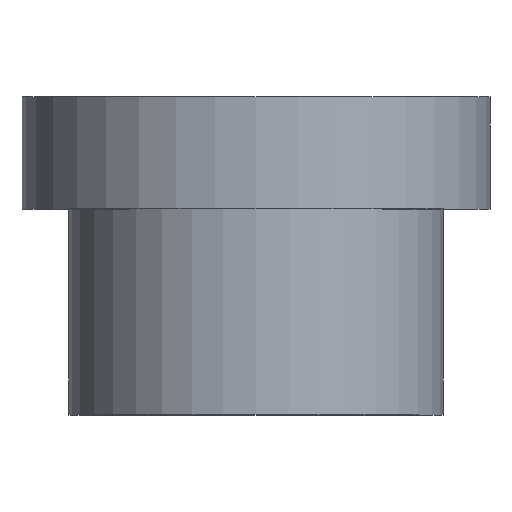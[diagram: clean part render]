
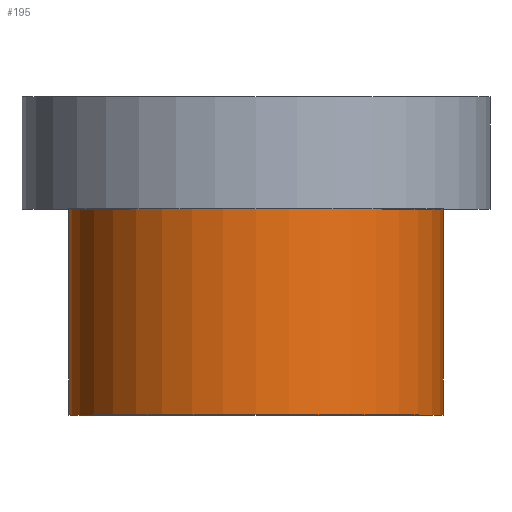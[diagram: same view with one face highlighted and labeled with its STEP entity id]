
A CAD part, top view. The second image highlights one B-rep face of the part: STEP entity #195.
In plain terms, the highlighted cylindrical face has radius 10 mm (diameter 20 mm), a full revolution.
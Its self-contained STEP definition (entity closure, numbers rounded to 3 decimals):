
#32=ORIENTED_EDGE('',*,*,#50,.T.);
#33=ORIENTED_EDGE('',*,*,#49,.F.);
#49=EDGE_CURVE('',#59,#59,#69,.T.);
#50=EDGE_CURVE('',#60,#60,#70,.T.);
#59=VERTEX_POINT('',#280);
#60=VERTEX_POINT('',#283);
#69=CIRCLE('',#213,10.);
#70=CIRCLE('',#215,10.);
#82=EDGE_LOOP('',(#32));
#83=EDGE_LOOP('',(#33));
#102=FACE_BOUND('',#82,.T.);
#103=FACE_BOUND('',#83,.T.);
#117=CYLINDRICAL_SURFACE('',#214,10.);
#195=ADVANCED_FACE('',(#102,#103),#117,.T.);
#213=AXIS2_PLACEMENT_3D('',#279,#241,#242);
#214=AXIS2_PLACEMENT_3D('',#281,#243,#244);
#215=AXIS2_PLACEMENT_3D('',#282,#245,#246);
#241=DIRECTION('',(0.,-1.,0.));
#242=DIRECTION('',(0.,0.,-1.));
#243=DIRECTION('',(0.,-1.,0.));
#244=DIRECTION('',(0.,0.,-1.));
#245=DIRECTION('',(0.,-1.,0.));
#246=DIRECTION('',(0.,0.,-1.));
#279=CARTESIAN_POINT('',(0.,0.,0.));
#280=CARTESIAN_POINT('',(0.,0.,-10.));
#281=CARTESIAN_POINT('',(0.,0.,0.));
#282=CARTESIAN_POINT('',(0.,11.,0.));
#283=CARTESIAN_POINT('',(0.,11.,-10.));
